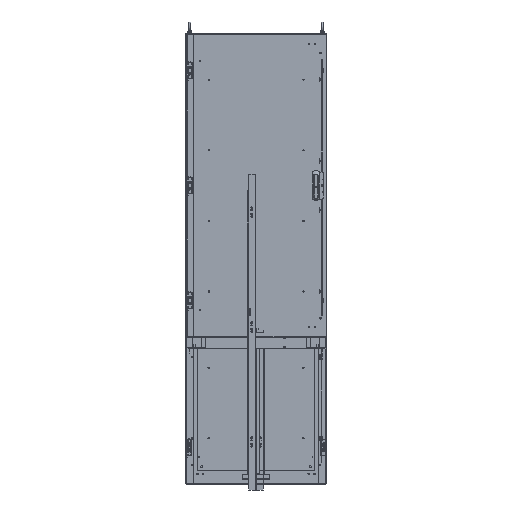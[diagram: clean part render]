
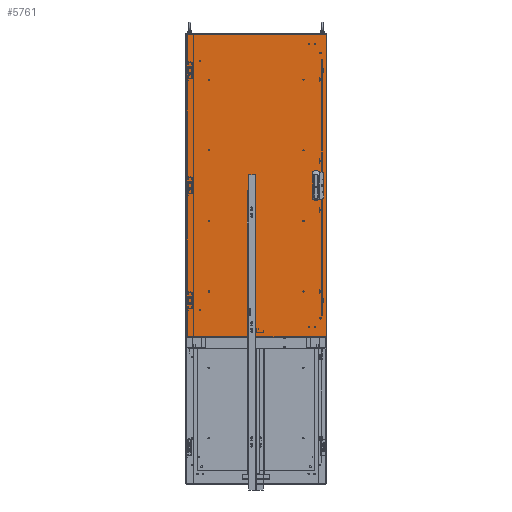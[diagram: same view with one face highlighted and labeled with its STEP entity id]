
A CAD part, front view. The second image highlights one B-rep face of the part: STEP entity #5761.
In plain terms, the highlighted planar face has unit normal (0, -1, 0).
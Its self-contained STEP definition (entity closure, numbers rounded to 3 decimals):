
#5761 = ADVANCED_FACE( '', ( #9071, #9072, #9073, #9074, #9075, #9076 ), #9077, .T. );
#9071 = FACE_BOUND( '', #14044, .T. );
#9072 = FACE_BOUND( '', #14045, .T. );
#9073 = FACE_BOUND( '', #14046, .T. );
#9074 = FACE_OUTER_BOUND( '', #14047, .T. );
#9075 = FACE_BOUND( '', #14048, .T. );
#9076 = FACE_BOUND( '', #14049, .T. );
#9077 = PLANE( '', #14050 );
#14044 = EDGE_LOOP( '', ( #26100, #26101, #26102, #26103 ) );
#14045 = EDGE_LOOP( '', ( #26104 ) );
#14046 = EDGE_LOOP( '', ( #26105, #26106, #26107, #26108 ) );
#14047 = EDGE_LOOP( '', ( #26109, #26110, #26111, #26112 ) );
#14048 = EDGE_LOOP( '', ( #26113, #26114, #26115, #26116 ) );
#14049 = EDGE_LOOP( '', ( #26117 ) );
#14050 = AXIS2_PLACEMENT_3D( '', #26118, #26119, #26120 );
#26100 = ORIENTED_EDGE( '', *, *, #38817, .F. );
#26101 = ORIENTED_EDGE( '', *, *, #38818, .F. );
#26102 = ORIENTED_EDGE( '', *, *, #38819, .F. );
#26103 = ORIENTED_EDGE( '', *, *, #38820, .F. );
#26104 = ORIENTED_EDGE( '', *, *, #38821, .T. );
#26105 = ORIENTED_EDGE( '', *, *, #38822, .F. );
#26106 = ORIENTED_EDGE( '', *, *, #38823, .F. );
#26107 = ORIENTED_EDGE( '', *, *, #38824, .F. );
#26108 = ORIENTED_EDGE( '', *, *, #38825, .F. );
#26109 = ORIENTED_EDGE( '', *, *, #38826, .T. );
#26110 = ORIENTED_EDGE( '', *, *, #38827, .F. );
#26111 = ORIENTED_EDGE( '', *, *, #38828, .F. );
#26112 = ORIENTED_EDGE( '', *, *, #38829, .F. );
#26113 = ORIENTED_EDGE( '', *, *, #38830, .T. );
#26114 = ORIENTED_EDGE( '', *, *, #38831, .T. );
#26115 = ORIENTED_EDGE( '', *, *, #38832, .T. );
#26116 = ORIENTED_EDGE( '', *, *, #38833, .T. );
#26117 = ORIENTED_EDGE( '', *, *, #38834, .T. );
#26118 = CARTESIAN_POINT( '', ( -397.701, 0., -859.631 ) );
#26119 = DIRECTION( '', ( 0., -1., 0. ) );
#26120 = DIRECTION( '', ( 0., 0., -1. ) );
#38817 = EDGE_CURVE( '', #45454, #45455, #45456, .T. );
#38818 = EDGE_CURVE( '', #45457, #45454, #45458, .T. );
#38819 = EDGE_CURVE( '', #45459, #45457, #45460, .T. );
#38820 = EDGE_CURVE( '', #45455, #45459, #45461, .T. );
#38821 = EDGE_CURVE( '', #45462, #45462, #45463, .T. );
#38822 = EDGE_CURVE( '', #45464, #45465, #45466, .T. );
#38823 = EDGE_CURVE( '', #45467, #45464, #45468, .T. );
#38824 = EDGE_CURVE( '', #45469, #45467, #45470, .T. );
#38825 = EDGE_CURVE( '', #45465, #45469, #45471, .T. );
#38826 = EDGE_CURVE( '', #45472, #45473, #45474, .T. );
#38827 = EDGE_CURVE( '', #45475, #45473, #45476, .T. );
#38828 = EDGE_CURVE( '', #45477, #45475, #45478, .T. );
#38829 = EDGE_CURVE( '', #45472, #45477, #45479, .T. );
#38830 = EDGE_CURVE( '', #45480, #45481, #45482, .T. );
#38831 = EDGE_CURVE( '', #45481, #45483, #45484, .T. );
#38832 = EDGE_CURVE( '', #45483, #45485, #45486, .T. );
#38833 = EDGE_CURVE( '', #45485, #45480, #45487, .T. );
#38834 = EDGE_CURVE( '', #45488, #45488, #45489, .T. );
#45454 = VERTEX_POINT( '', #55898 );
#45455 = VERTEX_POINT( '', #55899 );
#45456 = LINE( '', #55900, #55901 );
#45457 = VERTEX_POINT( '', #55902 );
#45458 = LINE( '', #55903, #55904 );
#45459 = VERTEX_POINT( '', #55905 );
#45460 = LINE( '', #55906, #55907 );
#45461 = LINE( '', #55908, #55909 );
#45462 = VERTEX_POINT( '', #55910 );
#45463 = CIRCLE( '', #55911, 4.013 );
#45464 = VERTEX_POINT( '', #55912 );
#45465 = VERTEX_POINT( '', #55913 );
#45466 = LINE( '', #55914, #55915 );
#45467 = VERTEX_POINT( '', #55916 );
#45468 = LINE( '', #55917, #55918 );
#45469 = VERTEX_POINT( '', #55919 );
#45470 = LINE( '', #55920, #55921 );
#45471 = LINE( '', #55922, #55923 );
#45472 = VERTEX_POINT( '', #55924 );
#45473 = VERTEX_POINT( '', #55925 );
#45474 = LINE( '', #55926, #55927 );
#45475 = VERTEX_POINT( '', #55928 );
#45476 = LINE( '', #55929, #55930 );
#45477 = VERTEX_POINT( '', #55931 );
#45478 = LINE( '', #55932, #55933 );
#45479 = LINE( '', #55934, #55935 );
#45480 = VERTEX_POINT( '', #55936 );
#45481 = VERTEX_POINT( '', #55937 );
#45482 = LINE( '', #55938, #55939 );
#45483 = VERTEX_POINT( '', #55940 );
#45484 = LINE( '', #55941, #55942 );
#45485 = VERTEX_POINT( '', #55943 );
#45486 = LINE( '', #55944, #55945 );
#45487 = LINE( '', #55946, #55947 );
#45488 = VERTEX_POINT( '', #55948 );
#45489 = CIRCLE( '', #55949, 4.013 );
#55898 = CARTESIAN_POINT( '', ( -350.183, 0., 75.006 ) );
#55899 = CARTESIAN_POINT( '', ( -350.183, 0., 24.994 ) );
#55900 = CARTESIAN_POINT( '', ( -350.183, 0., 75.006 ) );
#55901 = VECTOR( '', #69900, 1000. );
#55902 = CARTESIAN_POINT( '', ( -325.189, 0., 75.006 ) );
#55903 = CARTESIAN_POINT( '', ( -325.189, 0., 75.006 ) );
#55904 = VECTOR( '', #69901, 1000. );
#55905 = CARTESIAN_POINT( '', ( -325.189, 0., 24.994 ) );
#55906 = CARTESIAN_POINT( '', ( -325.189, 0., 24.994 ) );
#55907 = VECTOR( '', #69902, 1000. );
#55908 = CARTESIAN_POINT( '', ( -350.183, 0., 24.994 ) );
#55909 = VECTOR( '', #69903, 1000. );
#55910 = CARTESIAN_POINT( '', ( -369.664, 0., 35.001 ) );
#55911 = AXIS2_PLACEMENT_3D( '', #69904, #69905, #69906 );
#55912 = CARTESIAN_POINT( '', ( -374.198, 0., 15.875 ) );
#55913 = CARTESIAN_POINT( '', ( -374.198, 0., -15.875 ) );
#55914 = CARTESIAN_POINT( '', ( -374.198, 0., 15.875 ) );
#55915 = VECTOR( '', #69907, 1000. );
#55916 = CARTESIAN_POINT( '', ( -369.194, 0., 15.875 ) );
#55917 = CARTESIAN_POINT( '', ( -369.194, 0., 15.875 ) );
#55918 = VECTOR( '', #69908, 1000. );
#55919 = CARTESIAN_POINT( '', ( -369.194, 0., -15.875 ) );
#55920 = CARTESIAN_POINT( '', ( -369.194, 0., -15.875 ) );
#55921 = VECTOR( '', #69909, 1000. );
#55922 = CARTESIAN_POINT( '', ( -374.198, 0., -15.875 ) );
#55923 = VECTOR( '', #69910, 1000. );
#55924 = CARTESIAN_POINT( '', ( 394.957, 0., 856.888 ) );
#55925 = CARTESIAN_POINT( '', ( -394.957, 0., 856.888 ) );
#55926 = CARTESIAN_POINT( '', ( 394.957, 0., 856.888 ) );
#55927 = VECTOR( '', #69911, 1000. );
#55928 = CARTESIAN_POINT( '', ( -394.957, 0., -856.888 ) );
#55929 = CARTESIAN_POINT( '', ( -394.957, 0., -856.888 ) );
#55930 = VECTOR( '', #69912, 1000. );
#55931 = CARTESIAN_POINT( '', ( 394.957, 0., -856.888 ) );
#55932 = CARTESIAN_POINT( '', ( 394.957, 0., -856.888 ) );
#55933 = VECTOR( '', #69913, 1000. );
#55934 = CARTESIAN_POINT( '', ( 394.957, 0., 856.888 ) );
#55935 = VECTOR( '', #69914, 1000. );
#55936 = CARTESIAN_POINT( '', ( -350.183, 0., -25.019 ) );
#55937 = CARTESIAN_POINT( '', ( -325.189, 0., -25.019 ) );
#55938 = CARTESIAN_POINT( '', ( -350.183, 0., -25.019 ) );
#55939 = VECTOR( '', #69915, 1000. );
#55940 = CARTESIAN_POINT( '', ( -325.189, 0., -75.032 ) );
#55941 = CARTESIAN_POINT( '', ( -325.189, 0., -25.019 ) );
#55942 = VECTOR( '', #69916, 1000. );
#55943 = CARTESIAN_POINT( '', ( -350.183, 0., -75.032 ) );
#55944 = CARTESIAN_POINT( '', ( -325.189, 0., -75.032 ) );
#55945 = VECTOR( '', #69917, 1000. );
#55946 = CARTESIAN_POINT( '', ( -350.183, 0., -75.032 ) );
#55947 = VECTOR( '', #69918, 1000. );
#55948 = CARTESIAN_POINT( '', ( -369.664, 0., -35.001 ) );
#55949 = AXIS2_PLACEMENT_3D( '', #69919, #69920, #69921 );
#69900 = DIRECTION( '', ( 0., 0., -1. ) );
#69901 = DIRECTION( '', ( -1., 0., 0. ) );
#69902 = DIRECTION( '', ( 0., 0., 1. ) );
#69903 = DIRECTION( '', ( 1., 0., 0. ) );
#69904 = CARTESIAN_POINT( '', ( -373.678, 0., 35.001 ) );
#69905 = DIRECTION( '', ( 0., 1., 0. ) );
#69906 = DIRECTION( '', ( 1., 0., 0. ) );
#69907 = DIRECTION( '', ( 0., 0., -1. ) );
#69908 = DIRECTION( '', ( -1., 0., 0. ) );
#69909 = DIRECTION( '', ( 0., 0., 1. ) );
#69910 = DIRECTION( '', ( 1., 0., 0. ) );
#69911 = DIRECTION( '', ( -1., 0., 0. ) );
#69912 = DIRECTION( '', ( 0., 0., 1. ) );
#69913 = DIRECTION( '', ( -1., 0., 0. ) );
#69914 = DIRECTION( '', ( 0., 0., -1. ) );
#69915 = DIRECTION( '', ( 1., 0., 0. ) );
#69916 = DIRECTION( '', ( 0., 0., -1. ) );
#69917 = DIRECTION( '', ( -1., 0., 0. ) );
#69918 = DIRECTION( '', ( 0., 0., 1. ) );
#69919 = CARTESIAN_POINT( '', ( -373.678, 0., -35.001 ) );
#69920 = DIRECTION( '', ( 0., 1., 0. ) );
#69921 = DIRECTION( '', ( 1., 0., 0. ) );
